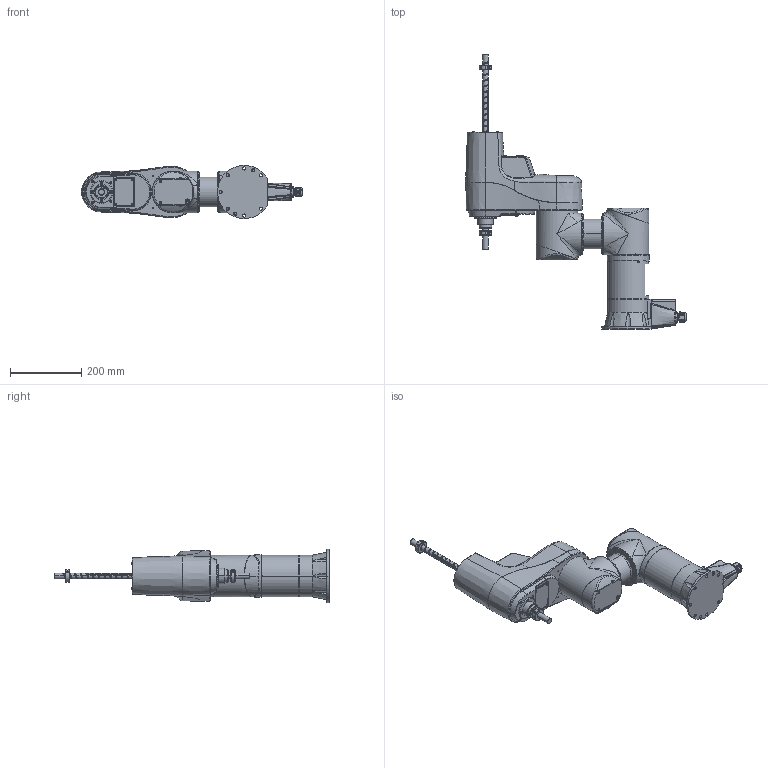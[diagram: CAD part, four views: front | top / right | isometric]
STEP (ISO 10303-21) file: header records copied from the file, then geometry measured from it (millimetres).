
FILE_DESCRIPTION((''),'2;1');
FILE_NAME('ZRB_0440N_15A_ASM','2022-12-14T11:18:56',('ChoSeongHee'),(''),'CREO PARAMETRIC BY PTC INC, 2022244','CREO PARAMETRIC BY PTC INC, 2022244','');
FILE_SCHEMA(('CONFIG_CONTROL_DESIGN'));
Products named in the file (5): BASE_ASM; MIDDLE_ASM; TOP_ASM; SCREW_ASM; ZRB_0440N_15A_ASM
Assembly tree (4 placements, depth 2):
  ZRB_0440N_15A_ASM
    BASE_ASM
    MIDDLE_ASM
    TOP_ASM
    SCREW_ASM
Bounding box: 619.54 x 767.8 x 148.99 mm (x, y, z)
Volume: 11455293.4 mm3; surface area: 585063.7 mm2
Topology: 4 solids, 14 shells, 3795 faces, 9795 edges, 6057 vertices
Faces by surface type: plane 1364, cylinder 1110, cone 714, bspline 391, torus 179, sphere 20, extrusion 17
Entity records: 194961 total; most frequent: CARTESIAN_POINT 108596, ORIENTED_EDGE 19210, DIRECTION 16023, EDGE_CURVE 9605, AXIS2_PLACEMENT_3D 6075, VERTEX_POINT 6057, EDGE_LOOP 4114, VECTOR 3873
